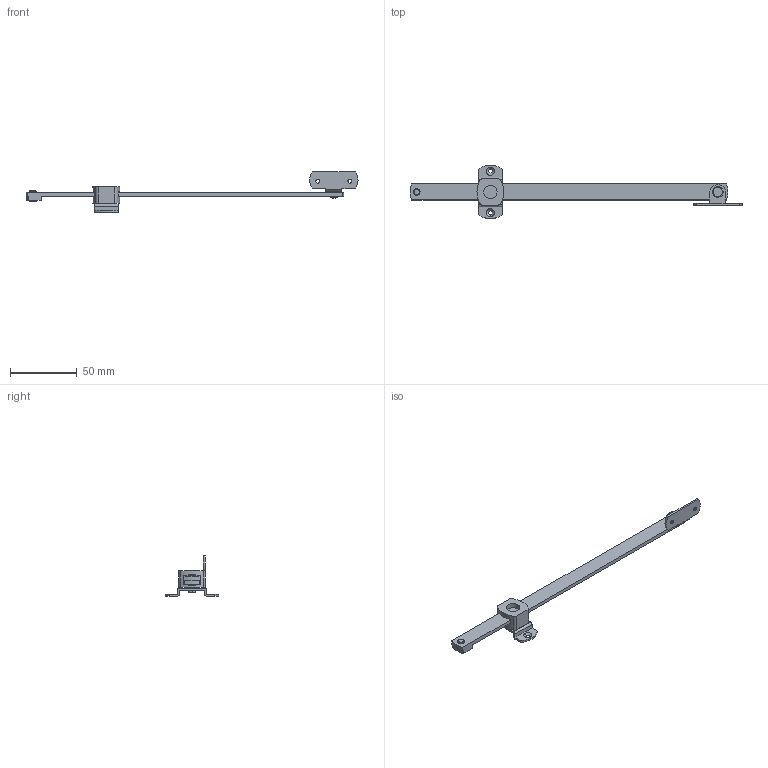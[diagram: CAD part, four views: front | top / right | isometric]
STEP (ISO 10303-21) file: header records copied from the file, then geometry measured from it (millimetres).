
FILE_DESCRIPTION (( 'STEP AP203' ), '1' );
FILE_NAME ('EDS-32-2.STEP', '2013-07-08T02:29:41', ( 'SDS' ), ( 'SDS' ), 'SwSTEP 2.0', 'SolidWorks 2002296', '' );
FILE_SCHEMA (( 'CONFIG_CONTROL_DESIGN' ));
Length unit declared in the file: millimetre
Products named in the file (5): EDS-32-2; EDS-32-2-2_蹬怮椔; EDS-32-2-1_蹬怮椔; EDS-32-2-4_蹬怮椔; EDS-32-2-3_蹬怮椔
Assembly tree (4 placements, depth 2):
  EDS-32-2
    EDS-32-2-4_蹬怮椔
    EDS-32-2-1_蹬怮椔
    EDS-32-2-3_蹬怮椔
    EDS-32-2-2_蹬怮椔
Bounding box: 248 x 40 x 30.1 mm (x, y, z)
Volume: 14490 mm3; surface area: 12839.4 mm2
Topology: 4 solids, 4 shells, 112 faces, 282 edges, 185 vertices
Faces by surface type: cylinder 56, plane 42, cone 8, torus 4, sphere 2
Entity records: 3969 total; most frequent: DIRECTION 660, CARTESIAN_POINT 586, ORIENTED_EDGE 564, EDGE_CURVE 282, AXIS2_PLACEMENT_3D 259, VERTEX_POINT 185, LINE 142, VECTOR 142
